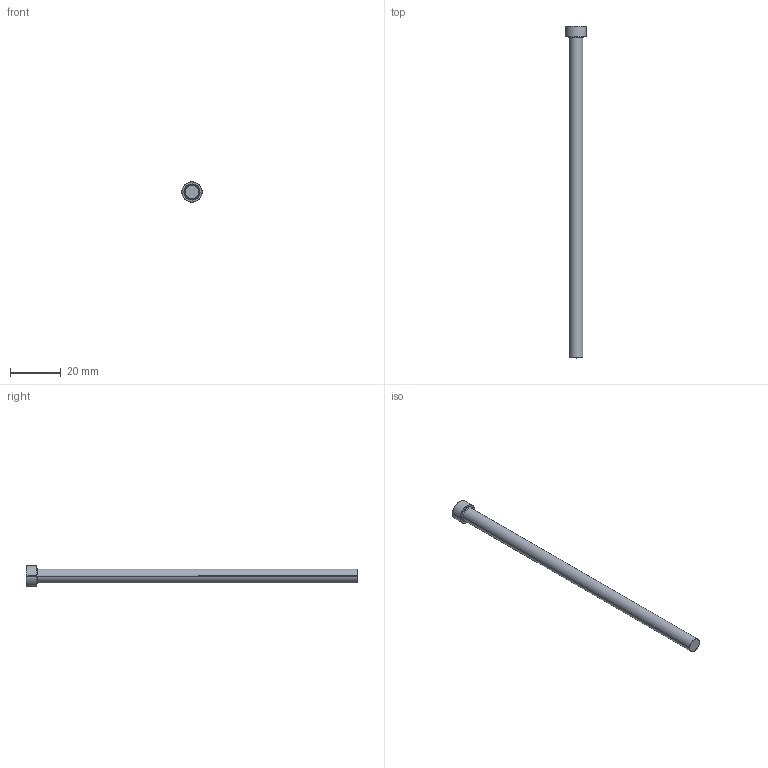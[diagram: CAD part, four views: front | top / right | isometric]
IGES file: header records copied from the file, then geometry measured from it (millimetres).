
Start section: SolidWorks IGES file using analytic representation for surfaces
Global section: file name: D:\Cleonir_arquivos\MT_15_07\Punções de Corte tipo E DIN 9861\PNE05,5130.igs; native system: SolidWorks 2013; preprocessor: SolidWorks 2013; author: Cleonir; date: 130731.214744; units: millimetre
Bounding box: 8 x 130.5 x 8 mm (x, y, z)
Surface area: 2385.8 mm2 (no closed solid volume)
Topology: 0 solids, 0 shells, 296 faces, 2226 edges, 2226 vertices
Faces by surface type: bspline 284, revolution 12
